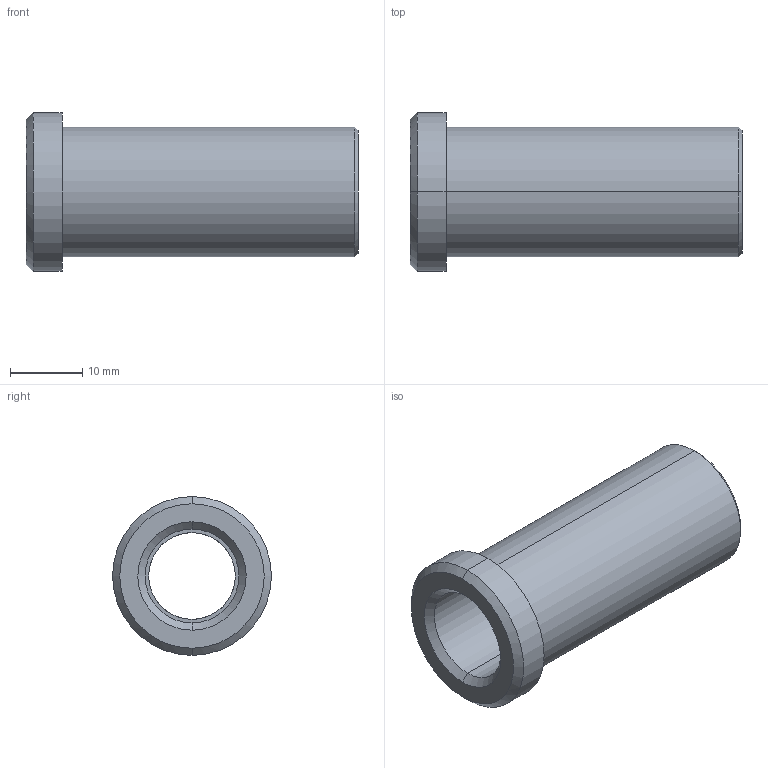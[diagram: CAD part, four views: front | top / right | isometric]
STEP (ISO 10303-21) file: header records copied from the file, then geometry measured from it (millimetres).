
FILE_DESCRIPTION(('CATIA V5 STEP Exchange'),'2;1');
FILE_NAME('C:\Users\Utente\Desktop\IO LAVORO\3D X SITO CF\X SITO\PLASTICA\353\353-12X46.stp','2021-04-21T12:20:42+00:00',('none'),('none'),'CATIA Version 5 Release 20 GA (IN-10)','CATIA V5 STEP AP203','none');
FILE_SCHEMA(('CONFIG_CONTROL_DESIGN'));
Length unit declared in the file: millimetre
Products named in the file (1): 353-12X46
Bounding box: 46 x 22 x 22 mm (x, y, z)
Volume: 6629.1 mm3; surface area: 4904.4 mm2
Topology: 1 solids, 1 shells, 20 faces, 64 edges, 48 vertices
Faces by surface type: cylinder 8, cone 6, plane 4, torus 2
Entity records: 900 total; most frequent: CARTESIAN_POINT 295, ORIENTED_EDGE 128, DIRECTION 92, EDGE_CURVE 64, AXIS2_PLACEMENT_3D 59, VERTEX_POINT 48, CIRCLE 38, EDGE_LOOP 24
